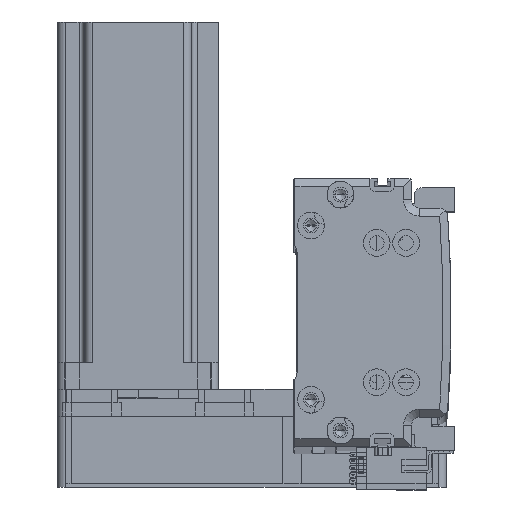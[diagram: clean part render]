
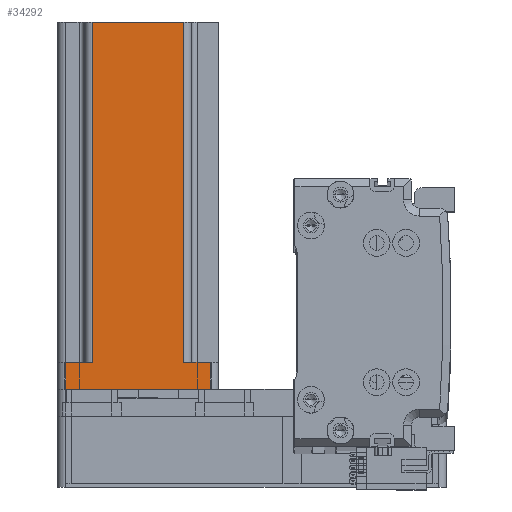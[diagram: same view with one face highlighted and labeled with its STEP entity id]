
A CAD part, top view. The second image highlights one B-rep face of the part: STEP entity #34292.
In plain terms, the highlighted planar face has unit normal (0, 0, 1) as drawn and (0, 1, 0) by its records, which use the part's own axes.
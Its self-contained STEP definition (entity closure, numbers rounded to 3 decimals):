
#517 = ORIENTED_EDGE ( 'NONE', *, *, #25776, .T. ) ;
#1786 = CARTESIAN_POINT ( 'NONE',  ( -27., 30., 10. ) ) ;
#2661 = CARTESIAN_POINT ( 'NONE',  ( -17., 30., 137. ) ) ;
#3743 = VERTEX_POINT ( 'NONE', #55954 ) ;
#4107 = VECTOR ( 'NONE', #34879, 1000. ) ;
#5607 = VECTOR ( 'NONE', #59720, 1000. ) ;
#5617 = ORIENTED_EDGE ( 'NONE', *, *, #8846, .F. ) ;
#6548 = CARTESIAN_POINT ( 'NONE',  ( 17., 30., 137. ) ) ;
#8224 = ORIENTED_EDGE ( 'NONE', *, *, #55663, .T. ) ;
#8364 = AXIS2_PLACEMENT_3D ( 'NONE', #51316, #23778, #55943 ) ;
#8846 = EDGE_CURVE ( 'NONE', #35020, #15553, #54514, .T. ) ;
#10574 = CARTESIAN_POINT ( 'NONE',  ( -17., 30., 137. ) ) ;
#11125 = DIRECTION ( 'NONE',  ( 0., 0., -1. ) ) ;
#14413 = DIRECTION ( 'NONE',  ( 1., 0., 0. ) ) ;
#14546 = EDGE_CURVE ( 'NONE', #23032, #15553, #40854, .T. ) ;
#14977 = CARTESIAN_POINT ( 'NONE',  ( 27., 30., 10. ) ) ;
#15553 = VERTEX_POINT ( 'NONE', #10574 ) ;
#16063 = VECTOR ( 'NONE', #14413, 1000. ) ;
#16379 = EDGE_CURVE ( 'NONE', #22505, #16735, #29766, .T. ) ;
#16735 = VERTEX_POINT ( 'NONE', #57123 ) ;
#17297 = LINE ( 'NONE', #55342, #41782 ) ;
#17821 = EDGE_LOOP ( 'NONE', ( #517, #24514, #5617, #27646, #46054, #56371, #8224, #22548 ) ) ;
#19091 = VECTOR ( 'NONE', #11125, 1000. ) ;
#20348 = VERTEX_POINT ( 'NONE', #51547 ) ;
#20774 = CARTESIAN_POINT ( 'NONE',  ( 30., 30., 0. ) ) ;
#22063 = VERTEX_POINT ( 'NONE', #1786 ) ;
#22177 = CARTESIAN_POINT ( 'NONE',  ( 27., 30., 137. ) ) ;
#22505 = VERTEX_POINT ( 'NONE', #14977 ) ;
#22548 = ORIENTED_EDGE ( 'NONE', *, *, #49053, .T. ) ;
#22933 = CARTESIAN_POINT ( 'NONE',  ( 30., 30., 137. ) ) ;
#23032 = VERTEX_POINT ( 'NONE', #37925 ) ;
#23778 = DIRECTION ( 'NONE',  ( 0., -1., 0. ) ) ;
#23910 = LINE ( 'NONE', #20774, #33251 ) ;
#24514 = ORIENTED_EDGE ( 'NONE', *, *, #14546, .T. ) ;
#25198 = DIRECTION ( 'NONE',  ( -1., 0., 0. ) ) ;
#25776 = EDGE_CURVE ( 'NONE', #22063, #23032, #52757, .T. ) ;
#26588 = CARTESIAN_POINT ( 'NONE',  ( 20., 30., 10. ) ) ;
#27646 = ORIENTED_EDGE ( 'NONE', *, *, #51070, .T. ) ;
#28209 = PLANE ( 'NONE',  #8364 ) ;
#29766 = LINE ( 'NONE', #22177, #55675 ) ;
#32039 = DIRECTION ( 'NONE',  ( 0., 0., 1. ) ) ;
#33251 = VECTOR ( 'NONE', #25198, 1000. ) ;
#34292 = ADVANCED_FACE ( 'NONE', ( #49820 ), #28209, .F. ) ;
#34879 = DIRECTION ( 'NONE',  ( 0., 0., 1. ) ) ;
#34979 = CARTESIAN_POINT ( 'NONE',  ( 17., 30., 137. ) ) ;
#35020 = VERTEX_POINT ( 'NONE', #34979 ) ;
#37925 = CARTESIAN_POINT ( 'NONE',  ( -17., 30., 10. ) ) ;
#40854 = LINE ( 'NONE', #2661, #4107 ) ;
#41782 = VECTOR ( 'NONE', #32039, 1000. ) ;
#42038 = CARTESIAN_POINT ( 'NONE',  ( -20., 30., 10. ) ) ;
#43249 = LINE ( 'NONE', #26588, #53996 ) ;
#43958 = EDGE_CURVE ( 'NONE', #22505, #3743, #43249, .T. ) ;
#46054 = ORIENTED_EDGE ( 'NONE', *, *, #43958, .F. ) ;
#49053 = EDGE_CURVE ( 'NONE', #20348, #22063, #17297, .T. ) ;
#49820 = FACE_OUTER_BOUND ( 'NONE', #17821, .T. ) ;
#51070 = EDGE_CURVE ( 'NONE', #35020, #3743, #55786, .T. ) ;
#51316 = CARTESIAN_POINT ( 'NONE',  ( 30., 30., 137. ) ) ;
#51547 = CARTESIAN_POINT ( 'NONE',  ( -27., 30., 0. ) ) ;
#52757 = LINE ( 'NONE', #42038, #16063 ) ;
#53996 = VECTOR ( 'NONE', #58757, 1000. ) ;
#54341 = DIRECTION ( 'NONE',  ( 0., 0., -1. ) ) ;
#54514 = LINE ( 'NONE', #22933, #5607 ) ;
#55342 = CARTESIAN_POINT ( 'NONE',  ( -27., 30., 137. ) ) ;
#55663 = EDGE_CURVE ( 'NONE', #16735, #20348, #23910, .T. ) ;
#55675 = VECTOR ( 'NONE', #54341, 1000. ) ;
#55786 = LINE ( 'NONE', #6548, #19091 ) ;
#55943 = DIRECTION ( 'NONE',  ( 1., 0., 0. ) ) ;
#55954 = CARTESIAN_POINT ( 'NONE',  ( 17., 30., 10. ) ) ;
#56371 = ORIENTED_EDGE ( 'NONE', *, *, #16379, .T. ) ;
#57123 = CARTESIAN_POINT ( 'NONE',  ( 27., 30., 0. ) ) ;
#58757 = DIRECTION ( 'NONE',  ( -1., 0., 0. ) ) ;
#59720 = DIRECTION ( 'NONE',  ( -1., 0., 0. ) ) ;
